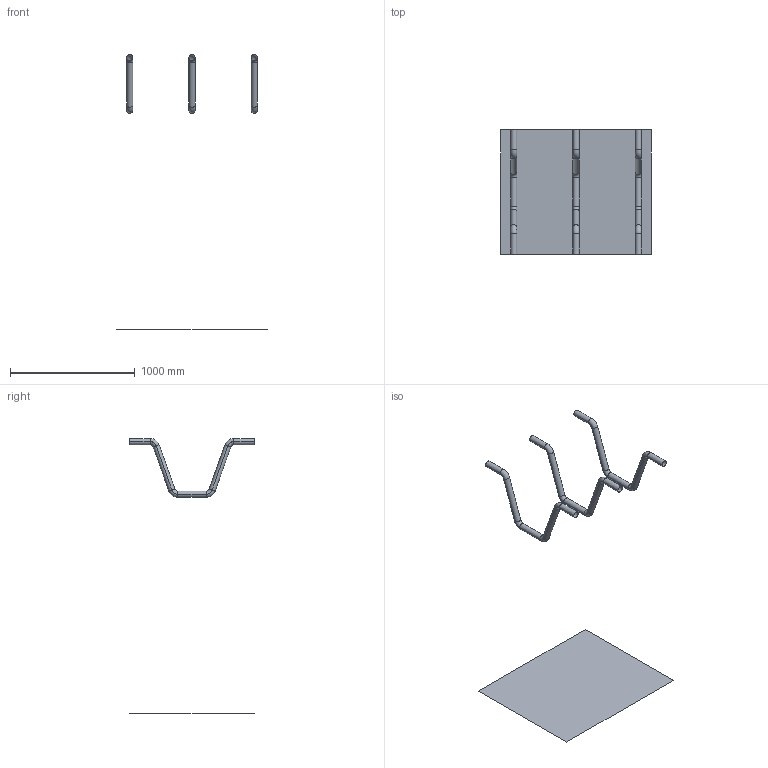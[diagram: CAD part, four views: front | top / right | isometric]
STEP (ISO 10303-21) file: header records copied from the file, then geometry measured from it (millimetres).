
FILE_DESCRIPTION(('CATIA V5 STEP Exchange'),'2;1');
FILE_NAME('C:\_Andres\UNIVERSIDAD\IQS\ASIGNATURAS\DAO\EXF\EXF-16172c\2inicio\Pares_Guanybens_Ej08_v21.stp','2017-03-05T21:54:54+00:00',('none'),('none'),'CATIA Version 5-6 Release 2014 SP1 HF18','CATIA V5 STEP AP203','none');
FILE_SCHEMA(('CONFIG_CONTROL_DESIGN'));
Length unit declared in the file: millimetre
Products named in the file (1): Pares_Guanybens_Ej08_v21
Bounding box: 1210 x 1000 x 2204 mm (x, y, z)
Surface area: 1943926.2 mm2 (no closed solid volume)
Topology: 0 solids, 4 shells, 55 faces, 118 edges, 64 vertices
Faces by surface type: cylinder 30, torus 24, plane 1
Entity records: 1283 total; most frequent: ORIENTED_EDGE 220, CARTESIAN_POINT 208, DIRECTION 168, EDGE_CURVE 118, AXIS2_PLACEMENT_3D 110, CIRCLE 84, VERTEX_POINT 64, ADVANCED_FACE 55
